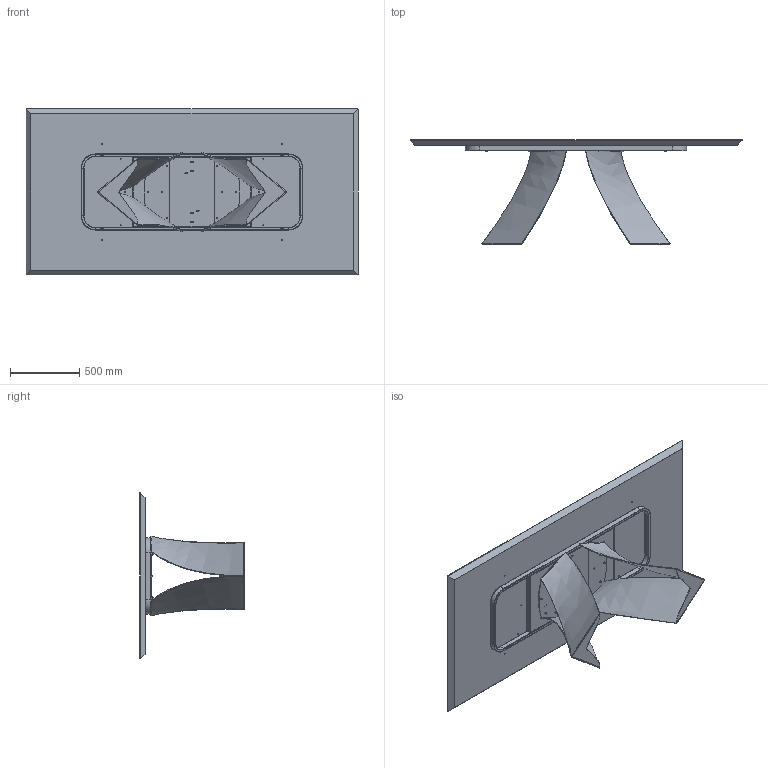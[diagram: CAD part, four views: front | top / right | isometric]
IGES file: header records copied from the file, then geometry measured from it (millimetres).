
Start section: SolidWorks IGES file using analytic representation for surfaces
Global section: file name: Y:\eforma\TECNICO\SOLIDWORKS\E-FORMA\1-TAVOLI\TWIST\02 parts\TW23W.IGS; native system: SolidWorks 2022; preprocessor: SolidWorks 2022; author: eforma.tech; date: 240807.143308; units: millimetre
Bounding box: 2400 x 753.37 x 1200 mm (x, y, z)
Volume: 115454770.2 mm3; surface area: 10294803.2 mm2
Topology: 52 solids, 52 shells, 1292 faces, 3032 edges, 1813 vertices
Faces by surface type: revolution 754, plane 472, bspline 66
